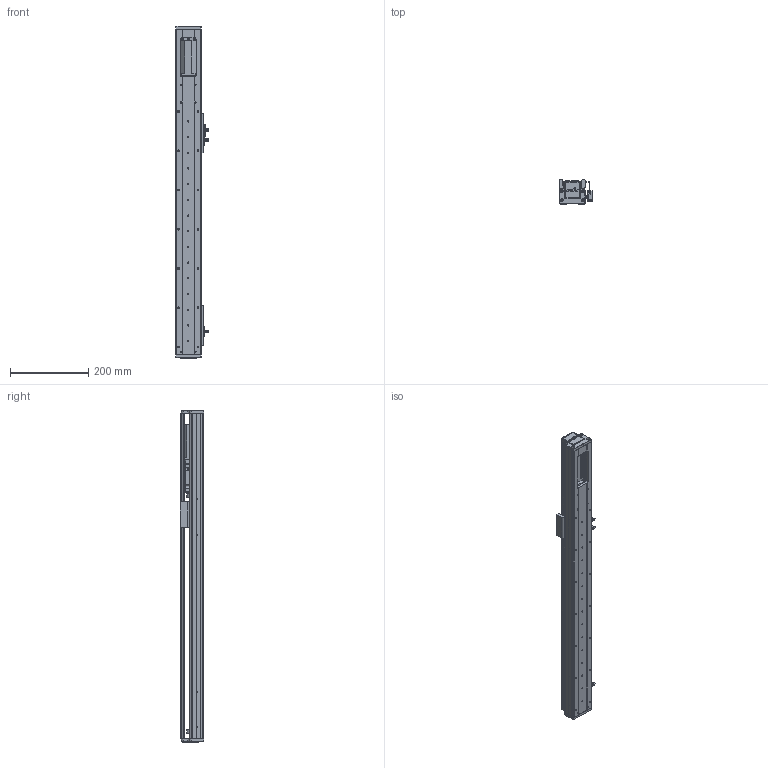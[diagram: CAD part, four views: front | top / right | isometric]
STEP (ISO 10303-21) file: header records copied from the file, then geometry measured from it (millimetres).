
FILE_DESCRIPTION (( 'STEP AP203' ), '1' );
FILE_NAME ('RY60-L1210-300-IK.SLDASM_500.step', '2021-02-22T05:12:09', ( '盈信电脑' ), ( '东莞市道滘镇水果街19号' ), 'SwSTEP 2.0', 'SolidWorks 2012', '' );
FILE_SCHEMA (( 'CONFIG_CONTROL_DESIGN' ));
Length unit declared in the file: millimetre
Products named in the file (12): RY60-L1210-300-IK.SLDASM_500; RY60-内置电机板100W（m3）; 滅袉蝶18-10; RY80俋离覜茼え; 侂狟100W; 覜茼ん672; RY60萇儂傷盓傅釱; RY60-300倰第裔啣-IK_500; RY60綴裔啣; 672嫖萇羲壽假蚾釱; RY60臏賑輸; RY60-300倰第菁釱-IK_500
Assembly tree (18 placements, depth 2):
  RY60-L1210-300-IK.SLDASM_500
    RY60-300倰第菁釱-IK_500
    RY60臏賑輸
    RY60-300倰第裔啣-IK_500
    RY60萇儂傷盓傅釱
    672嫖萇羲壽假蚾釱  x2
    RY60綴裔啣  x2
    覜茼ん672  x3
    RY80俋离覜茼え
    侂狟100W
    滅袉蝶18-10  x4
    RY60-内置电机板100W（m3）
Bounding box: 83.7 x 61 x 846 mm (x, y, z)
Volume: 1064886.8 mm3; surface area: 523450 mm2
Topology: 18 solids, 18 shells, 1523 faces, 4272 edges, 2765 vertices
Faces by surface type: plane 809, cylinder 602, cone 96, bspline 16
Entity records: 41761 total; most frequent: CARTESIAN_POINT 10160, ORIENTED_EDGE 6444, DIRECTION 6129, EDGE_CURVE 3222, VERTEX_POINT 2111, AXIS2_PLACEMENT_3D 2074, LINE 1981, VECTOR 1981
